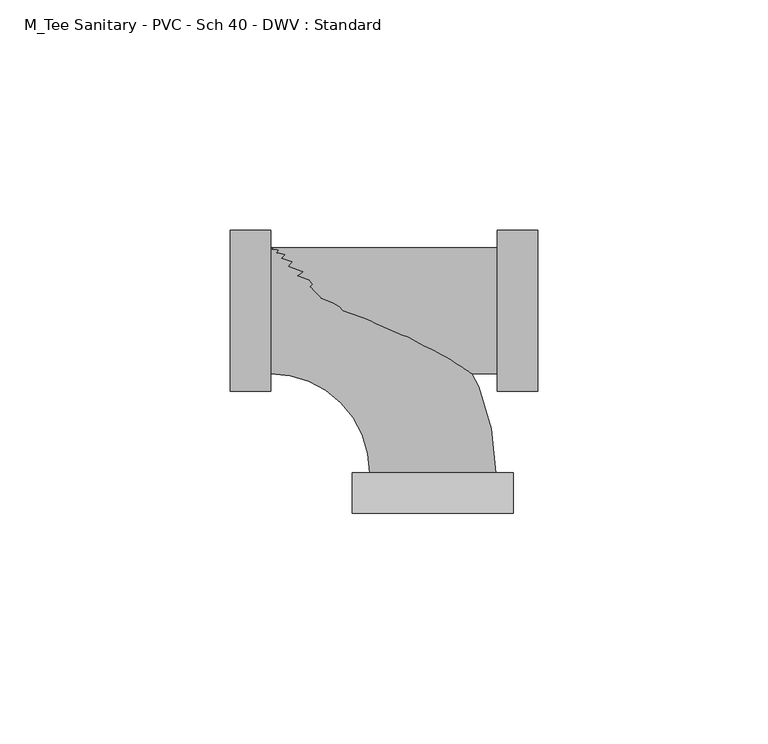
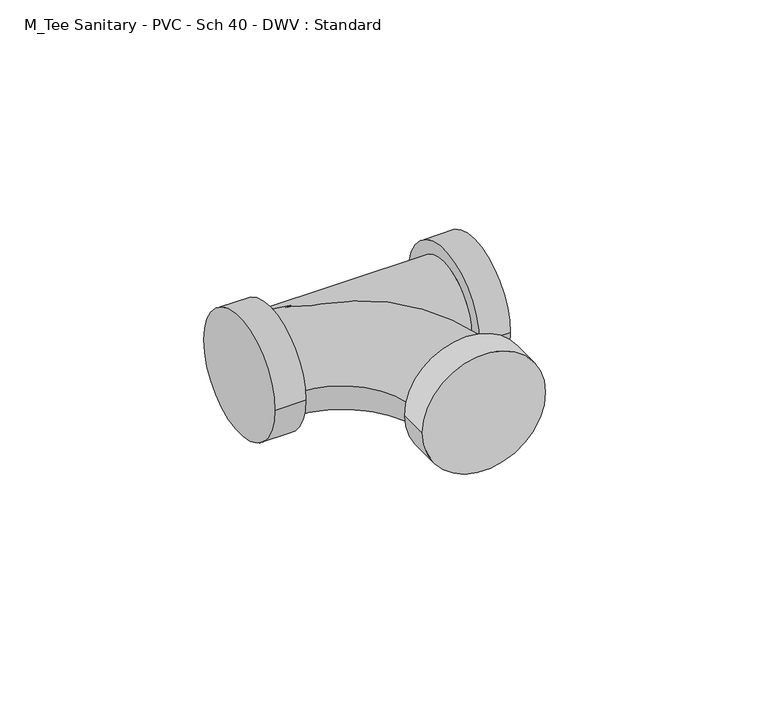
"""IFC4 building model written with IfcOpenShell, lengths in millimetres: pipe fitting geometry, M_Tee Sanitary - PVC - Sch 40 - DWV : Standard."""

from ifc_helpers import new_model, si_unit, point, frame, origin, place, context, project, spatial, circle_curve, ellipse_curve, trimmed, source, transform, mapped, element, save
from ifc_brep_helpers import plane_surface, cylinder_surface, revolved_surface, advanced_brep


def m_tee_sanitary_pvc_sch_40_dwv_standard_2f9d04e6(model_context):
    return source(origin(), model_context, "Body", "AdvancedBrep", [
        advanced_brep(
        [(-35.1640625, -13.6640625, 0.0), (-35.1640625, 13.6640625, 0.0), (-13.6640625, -35.1640625, 0.0), (13.6640625, -35.1640625, 0.0), (17.4371094, -43.9140625, 0.0), (-17.4371094, -43.9140625, 0.0), (17.4371094, -35.1640625, 0.0), (-17.4371094, -35.1640625, 0.0)],
        [
            (0, 1, circle_curve(frame((-35.1640625, 0.0, 0.0), z_axis=(-1.0, 0.0, 0.0), x_axis=(0.0, 1.0, 0.0)), 13.6640625)),
            (1, 0, circle_curve(frame((-35.1640625, 0.0, 0.0), z_axis=(-1.0, 0.0, 0.0), x_axis=(0.0, 1.0, 0.0)), 13.6640625)),
            (0, 2, circle_curve(frame((-35.1640625, -35.1640625, 0.0), z_axis=(0.0, 0.0, -1.0), x_axis=(0.0, 1.0, 0.0)), 21.5)),
            (2, 3, circle_curve(frame((0.0, -35.1640625, 0.0), z_axis=(-1.301686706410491e-12, 1.0, 0.0), x_axis=(1.0, 1.301686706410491e-12, 0.0)), 13.6640625)),
            (3, 1, circle_curve(frame((-35.1640625, -35.1640625, 0.0), z_axis=(0.0, 0.0, 1.0), x_axis=(0.0, 1.0, 0.0)), 48.828125)),
            (3, 2, circle_curve(frame((0.0, -35.1640625, 0.0), z_axis=(-1.0287938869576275e-12, 1.0, 0.0), x_axis=(1.0, 1.0287938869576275e-12, 0.0)), 13.6640625)),
            (4, 5, circle_curve(frame((0.0, -43.9140625, 0.0), z_axis=(0.0, -1.0, 0.0), x_axis=(-1.0, 0.0, 0.0)), 17.4371094)),
            (5, 4, circle_curve(frame((0.0, -43.9140625, 0.0), z_axis=(0.0, -1.0, 0.0), x_axis=(-1.0, 0.0, 0.0)), 17.4371094)),
            (6, 7, circle_curve(frame((0.0, -35.1640625, 0.0), z_axis=(0.0, 1.0, 0.0), x_axis=(-1.0, 0.0, 0.0)), 17.4371094)),
            (7, 6, circle_curve(frame((0.0, -35.1640625, 0.0), z_axis=(0.0, 1.0, 0.0), x_axis=(-1.0, 0.0, 0.0)), 17.4371094)),
            (4, 6),
            (7, 5),
        ],
        [
            plane_surface(frame((-35.1640625, 0.0, 0.0), z_axis=(-1.0, 0.0, 0.0), x_axis=(0.0, 0.0, 1.0))),
            revolved_surface(trimmed(ellipse_curve(frame((-35.1640625, 0.0, 0.0), z_axis=(-1.0, 0.0, 0.0), x_axis=(0.0, 1.0, 0.0)), 13.6640625, 13.6640625), [point((-35.1640625, -13.6640625, 0.0))], [point((-35.1640625, 13.6640625, 0.0))], True, "CARTESIAN"), (-35.1640625, -35.1640625, 0.0), (0.0, 0.0, -1.0)),
            revolved_surface(trimmed(ellipse_curve(frame((-35.1640625, 0.0, 0.0), z_axis=(-1.0, 0.0, 0.0), x_axis=(0.0, 1.0, 0.0)), 13.6640625, 13.6640625), [point((-35.1640625, 13.6640625, 0.0))], [point((-35.1640625, -13.6640625, 0.0))], True, "CARTESIAN"), (-35.1640625, -35.1640625, 0.0), (0.0, 0.0, -1.0)),
            plane_surface(frame((0.0, -43.9140625, 0.0), z_axis=(0.0, -1.0, 0.0), x_axis=(0.0, 0.0, 1.0))),
            plane_surface(frame((0.0, -35.1640625, 0.0), z_axis=(0.0, 1.0, 0.0), x_axis=(0.0, 0.0, 1.0))),
            cylinder_surface(frame((0.0, -43.9140625, 0.0), z_axis=(0.0, -1.0, 0.0), x_axis=(-1.0, 0.0, 0.0)), 17.4371094),
        ],
        [
            (0, [[1, 2]]),
            (1, [[-1, 3, 4, 5]]),
            (2, [[-2, -5, 6, -3]]),
            (3, [[7, 8]]),
            (4, [[9, 10], [-4, -6]]),
            (5, [[-7, 11, -10, 12]]),
            (5, [[-8, -12, -9, -11]]),
        ],
    ),
        advanced_brep(
        [(-35.1640625, -13.6640625, 0.0), (13.990625, -13.6640625, 0.0), (13.990625, 13.6640625, 0.0), (-35.1640625, 13.6640625, 0.0), (13.990625, -17.4371094, 0.0), (13.990625, 17.4371094, 0.0), (22.740625, -17.4371094, 0.0), (22.740625, 17.4371094, 0.0), (-43.9140625, -17.4371094, 0.0), (-43.9140625, 17.4371094, 0.0), (-35.1640625, -17.4371094, 0.0), (-35.1640625, 17.4371094, 0.0)],
        [
            (0, 1),
            (1, 2, circle_curve(frame((13.990625, 0.0, 0.0), z_axis=(-1.0, 0.0, 0.0), x_axis=(0.0, 1.0, 0.0)), 13.6640625)),
            (2, 3),
            (3, 0, circle_curve(frame((-35.1640625, 0.0, 0.0), z_axis=(1.0, 0.0, 0.0), x_axis=(0.0, 1.0, 0.0)), 13.6640625)),
            (0, 3, circle_curve(frame((-35.1640625, 0.0, 0.0), z_axis=(1.0, 0.0, 0.0), x_axis=(0.0, 1.0, 0.0)), 13.6640625)),
            (2, 1, circle_curve(frame((13.990625, 0.0, 0.0), z_axis=(-1.0, 0.0, 0.0), x_axis=(0.0, 1.0, 0.0)), 13.6640625)),
            (4, 5, circle_curve(frame((13.990625, 0.0, 0.0), z_axis=(-1.0, 0.0, 0.0), x_axis=(0.0, 1.0, 0.0)), 17.4371094)),
            (5, 4, circle_curve(frame((13.990625, 0.0, 0.0), z_axis=(-1.0, 0.0, 0.0), x_axis=(0.0, 1.0, 0.0)), 17.4371094)),
            (6, 7, circle_curve(frame((22.740625, 0.0, 0.0), z_axis=(1.0, 0.0, 0.0), x_axis=(0.0, 1.0, 0.0)), 17.4371094)),
            (7, 6, circle_curve(frame((22.740625, 0.0, 0.0), z_axis=(1.0, 0.0, 0.0), x_axis=(0.0, 1.0, 0.0)), 17.4371094)),
            (4, 6),
            (7, 5),
            (8, 9, circle_curve(frame((-43.9140625, 0.0, 0.0), z_axis=(-1.0, 0.0, 0.0), x_axis=(0.0, 1.0, 0.0)), 17.4371094)),
            (9, 8, circle_curve(frame((-43.9140625, 0.0, 0.0), z_axis=(-1.0, 0.0, 0.0), x_axis=(0.0, 1.0, 0.0)), 17.4371094)),
            (10, 11, circle_curve(frame((-35.1640625, 0.0, 0.0), z_axis=(1.0, 0.0, 0.0), x_axis=(0.0, 1.0, 0.0)), 17.4371094)),
            (11, 10, circle_curve(frame((-35.1640625, 0.0, 0.0), z_axis=(1.0, 0.0, 0.0), x_axis=(0.0, 1.0, 0.0)), 17.4371094)),
            (8, 10),
            (11, 9),
        ],
        [
            cylinder_surface(frame((-35.1640625, 0.0, 0.0), z_axis=(-1.0, 0.0, 0.0), x_axis=(0.0, 1.0, 0.0)), 13.6640625),
            plane_surface(frame((13.990625, 0.0, 0.0), z_axis=(-1.0, 0.0, 0.0), x_axis=(0.0, 0.0, 1.0))),
            plane_surface(frame((22.740625, 0.0, 0.0), z_axis=(1.0, 0.0, 0.0), x_axis=(0.0, 0.0, 1.0))),
            cylinder_surface(frame((13.990625, 0.0, 0.0), z_axis=(-1.0, 0.0, 0.0), x_axis=(0.0, 1.0, 0.0)), 17.4371094),
            plane_surface(frame((-43.9140625, 0.0, 0.0), z_axis=(-1.0, 0.0, 0.0), x_axis=(0.0, 0.0, 1.0))),
            plane_surface(frame((-35.1640625, 0.0, 0.0), z_axis=(1.0, 0.0, 0.0), x_axis=(0.0, 0.0, 1.0))),
            cylinder_surface(frame((-43.9140625, 0.0, 0.0), z_axis=(-1.0, 0.0, 0.0), x_axis=(0.0, 1.0, 0.0)), 17.4371094),
        ],
        [
            (0, [[1, 2, 3, 4]]),
            (0, [[-1, 5, -3, 6]]),
            (1, [[7, 8], [-2, -6]]),
            (2, [[9, 10]]),
            (3, [[-7, 11, -10, 12]]),
            (3, [[-8, -12, -9, -11]]),
            (4, [[13, 14]]),
            (5, [[15, 16], [-4, -5]]),
            (6, [[-13, 17, -16, 18]]),
            (6, [[-14, -18, -15, -17]]),
        ],
    ),
    ])


if __name__ == "__main__":
    model = new_model("IFC4")
    model_context = context("Model", 3, world=origin())
    ifc_project = project(units=[si_unit("LENGTHUNIT", "METRE", prefix="MILLI")], contexts=[model_context])
    site = spatial("IfcSite", under=ifc_project)
    building = spatial("IfcBuilding", under=site)
    placement = place(None, origin())
    m_tee_sanitary_pvc_sch_40_dwv_standard_shape = m_tee_sanitary_pvc_sch_40_dwv_standard_2f9d04e6(model_context)
    element("IfcPipeFitting", 1, ObjectType="M_Tee Sanitary - PVC - Sch 40 - DWV : Standard", at=placement, inside=building, context=model_context, shape_type="MappedRepresentation", body=[
        mapped(m_tee_sanitary_pvc_sch_40_dwv_standard_shape, transform((0.0, 0.0, 0.0), x_axis=(1.0, 0.0, 0.0), y_axis=(0.0, 1.0, 0.0), z_axis=(0.0, 0.0, 1.0))),
    ])
    save(model, "model.ifc")
